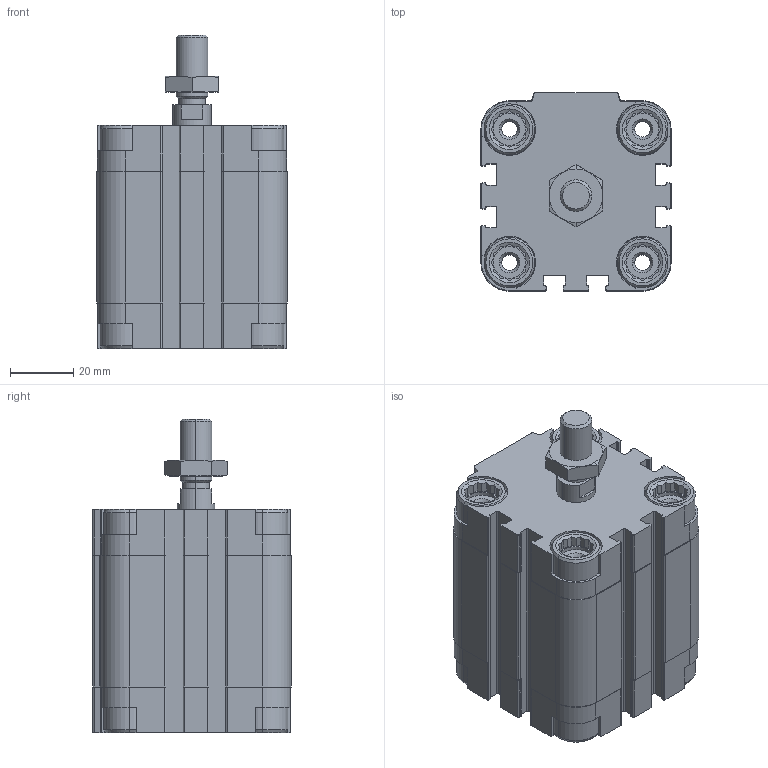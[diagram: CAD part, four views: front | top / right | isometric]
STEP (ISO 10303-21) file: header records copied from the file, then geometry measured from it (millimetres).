
FILE_DESCRIPTION (( 'STEP AP203' ), '1' );
FILE_NAME ('CDVU40-25.STEP', '2020-03-19T11:34:51', ( '' ), ( '' ), 'SwSTEP 2.0', 'SolidWorks 2019', '' );
FILE_SCHEMA (( 'CONFIG_CONTROL_DESIGN' ));
Length unit declared in the file: millimetre
Products named in the file (1): CDVU40-25
Bounding box: 60 x 62.5 x 99 mm (x, y, z)
Volume: 198025.8 mm3; surface area: 52672.2 mm2
Topology: 3 solids, 3 shells, 727 faces, 1932 edges, 1246 vertices
Faces by surface type: plane 425, cylinder 232, cone 70
Entity records: 22975 total; most frequent: CARTESIAN_POINT 4762, ORIENTED_EDGE 3856, DIRECTION 3712, EDGE_CURVE 1928, AXIS2_PLACEMENT_3D 1260, VERTEX_POINT 1246, LINE 1192, VECTOR 1192
